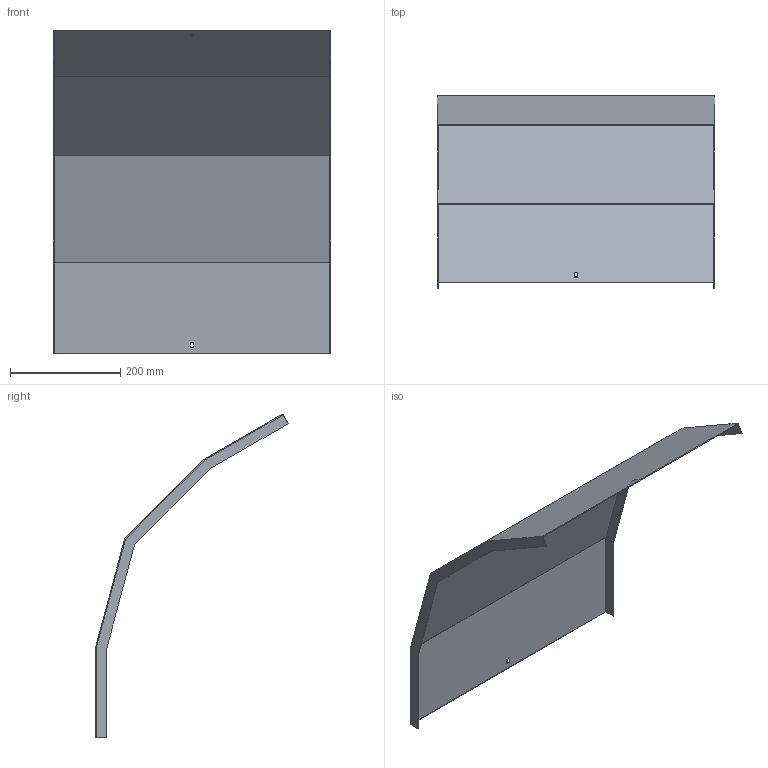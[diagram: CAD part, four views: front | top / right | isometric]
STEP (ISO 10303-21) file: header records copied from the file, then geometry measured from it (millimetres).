
FILE_DESCRIPTION (( 'STEP AP214' ), '1' );
FILE_NAME ('A2_41N3D500.step', '2025-02-21T10:40:07', ( '' ), ( '' ), 'SwSTEP 2.0', 'SolidWorks 2023', '' );
FILE_SCHEMA (( 'AUTOMOTIVE_DESIGN' ));
Length unit declared in the file: millimetre
Products named in the file (1): A2_41N3D500
Bounding box: 503 x 349.52 x 588.06 mm (x, y, z)
Volume: 595762 mm3; surface area: 798212.7 mm2
Topology: 1 solids, 1 shells, 30 faces, 84 edges, 56 vertices
Faces by surface type: plane 30
Entity records: 979 total; most frequent: CARTESIAN_POINT 171, ORIENTED_EDGE 168, DIRECTION 146, VECTOR 84, EDGE_CURVE 84, LINE 84, VERTEX_POINT 56, EDGE_LOOP 34
